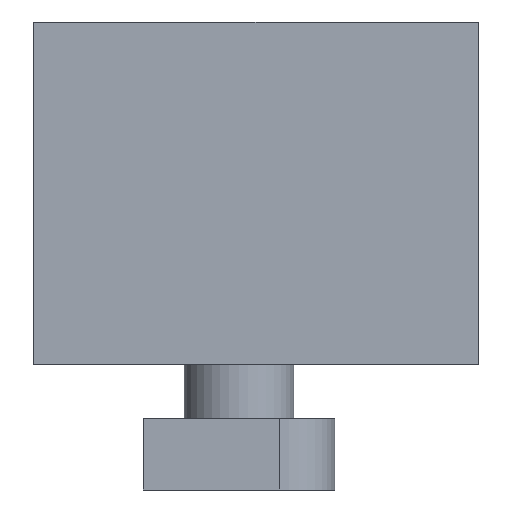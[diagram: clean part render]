
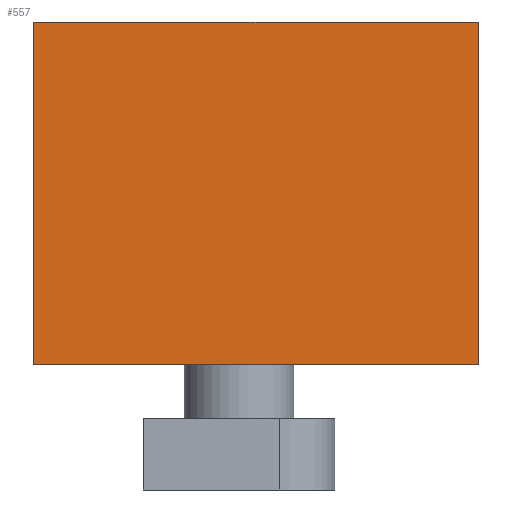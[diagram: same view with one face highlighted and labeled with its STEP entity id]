
A CAD part, left-side view. The second image highlights one B-rep face of the part: STEP entity #557.
In plain terms, the highlighted planar face has unit normal (-1, 0, 0).
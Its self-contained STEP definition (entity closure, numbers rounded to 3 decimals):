
#518=CARTESIAN_POINT('',(-10.0,-17.5,0.0));
#519=DIRECTION('',(-1.0,0.0,0.0));
#520=DIRECTION('',(0.0,0.0,1.0));
#521=AXIS2_PLACEMENT_3D('',#518,#519,#520);
#522=PLANE('',#521);
#523=CARTESIAN_POINT('',(-10.0,-17.5,25.));
#524=VERTEX_POINT('',#523);
#525=CARTESIAN_POINT('',(-10.,15.0,25.));
#526=VERTEX_POINT('',#525);
#527=CARTESIAN_POINT('',(-10.0,-17.5,25.));
#528=DIRECTION('',(0.0,1.0,0.0));
#529=VECTOR('',#528,32.5);
#530=LINE('',#527,#529);
#531=EDGE_CURVE('',#524,#526,#530,.T.);
#532=ORIENTED_EDGE('',*,*,#531,.T.);
#533=CARTESIAN_POINT('',(-10.,15.0,0.0));
#534=VERTEX_POINT('',#533);
#535=CARTESIAN_POINT('',(-10.,15.0,0.0));
#536=DIRECTION('',(0.0,0.0,1.0));
#537=VECTOR('',#536,25.);
#538=LINE('',#535,#537);
#539=EDGE_CURVE('',#534,#526,#538,.T.);
#540=ORIENTED_EDGE('',*,*,#539,.F.);
#541=CARTESIAN_POINT('',(-10.0,-17.5,0.0));
#542=VERTEX_POINT('',#541);
#543=CARTESIAN_POINT('',(-10.,15.0,0.0));
#544=DIRECTION('',(0.0,-1.0,0.0));
#545=VECTOR('',#544,32.5);
#546=LINE('',#543,#545);
#547=EDGE_CURVE('',#534,#542,#546,.T.);
#548=ORIENTED_EDGE('',*,*,#547,.T.);
#549=CARTESIAN_POINT('',(-10.0,-17.5,0.0));
#550=DIRECTION('',(0.0,0.0,1.0));
#551=VECTOR('',#550,25.);
#552=LINE('',#549,#551);
#553=EDGE_CURVE('',#542,#524,#552,.T.);
#554=ORIENTED_EDGE('',*,*,#553,.T.);
#555=EDGE_LOOP('',(#532,#540,#548,#554));
#556=FACE_OUTER_BOUND('',#555,.T.);
#557=ADVANCED_FACE('',(#556),#522,.T.);
